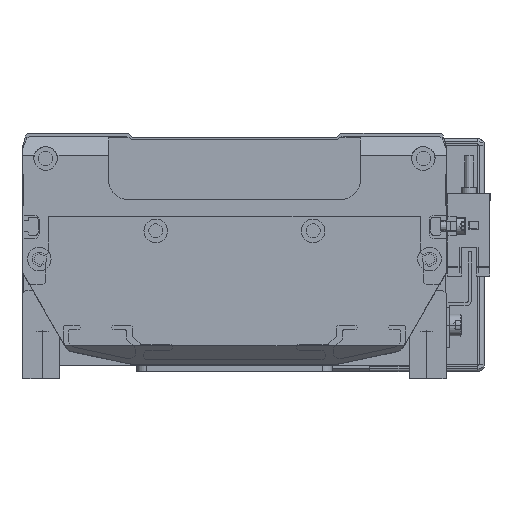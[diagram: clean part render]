
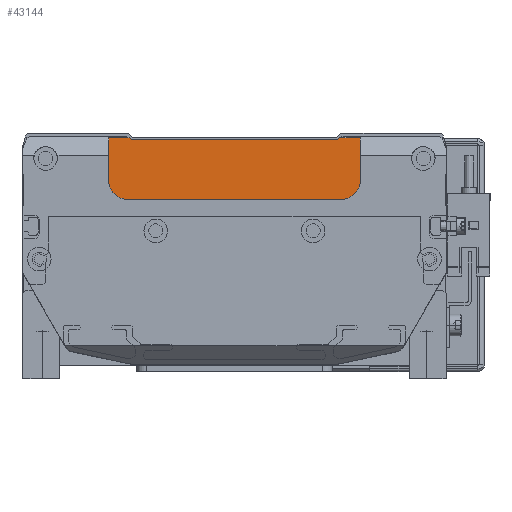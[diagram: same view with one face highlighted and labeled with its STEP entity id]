
A CAD part, front view. The second image highlights one B-rep face of the part: STEP entity #43144.
In plain terms, the highlighted planar face has unit normal (0, -1, 0) as drawn and (0, 0, -1) by its records, which use the part's own axes.
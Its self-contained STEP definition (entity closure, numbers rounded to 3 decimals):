
#97 = VECTOR ( 'NONE', #11158, 1000. ) ;
#592 = CARTESIAN_POINT ( 'NONE',  ( 3.604, 21., -364. ) ) ;
#617 = LINE ( 'NONE', #677, #35348 ) ;
#633 = CARTESIAN_POINT ( 'NONE',  ( 3.604, 1.5, -364. ) ) ;
#677 = CARTESIAN_POINT ( 'NONE',  ( 3.604, 2., -364. ) ) ;
#898 = VERTEX_POINT ( 'NONE', #40068 ) ;
#1066 = EDGE_CURVE ( 'NONE', #14233, #4211, #1387, .T. ) ;
#1229 = VERTEX_POINT ( 'NONE', #7883 ) ;
#1325 = CARTESIAN_POINT ( 'NONE',  ( -28.893, 2., -364. ) ) ;
#1387 = LINE ( 'NONE', #633, #16242 ) ;
#2067 = DIRECTION ( 'NONE',  ( -0.894, -0.447, 0. ) ) ;
#3050 = FACE_OUTER_BOUND ( 'NONE', #6437, .T. ) ;
#3360 = ORIENTED_EDGE ( 'NONE', *, *, #1066, .T. ) ;
#3368 = EDGE_CURVE ( 'NONE', #898, #41642, #6955, .T. ) ;
#4211 = VERTEX_POINT ( 'NONE', #18718 ) ;
#4616 = VERTEX_POINT ( 'NONE', #34570 ) ;
#5050 = VERTEX_POINT ( 'NONE', #1325 ) ;
#5167 = LINE ( 'NONE', #33452, #37277 ) ;
#6437 = EDGE_LOOP ( 'NONE', ( #11467, #3360, #11386, #33077, #43637, #9389, #41186, #16759, #37093, #38581 ) ) ;
#6955 = LINE ( 'NONE', #31588, #26962 ) ;
#7029 = EDGE_CURVE ( 'NONE', #4616, #41642, #5167, .T. ) ;
#7221 = CIRCLE ( 'NONE', #14910, 6. ) ;
#7883 = CARTESIAN_POINT ( 'NONE',  ( -36.396, 15., -364. ) ) ;
#8040 = EDGE_CURVE ( 'NONE', #42896, #18862, #7221, .T. ) ;
#8897 = VERTEX_POINT ( 'NONE', #13928 ) ;
#9389 = ORIENTED_EDGE ( 'NONE', *, *, #8040, .T. ) ;
#10092 = CARTESIAN_POINT ( 'NONE',  ( 37.604, 15., -364. ) ) ;
#10722 = CARTESIAN_POINT ( 'NONE',  ( 43.604, 15., -364. ) ) ;
#11158 = DIRECTION ( 'NONE',  ( 0., 1., 0. ) ) ;
#11386 = ORIENTED_EDGE ( 'NONE', *, *, #27716, .T. ) ;
#11467 = ORIENTED_EDGE ( 'NONE', *, *, #12205, .T. ) ;
#11788 = DIRECTION ( 'NONE',  ( 0.894, -0.447, 0. ) ) ;
#12205 = EDGE_CURVE ( 'NONE', #5050, #14233, #31116, .T. ) ;
#12406 = EDGE_CURVE ( 'NONE', #898, #5050, #617, .T. ) ;
#12886 = VECTOR ( 'NONE', #38952, 1000. ) ;
#13846 = EDGE_CURVE ( 'NONE', #8897, #42896, #32042, .T. ) ;
#13928 = CARTESIAN_POINT ( 'NONE',  ( -30.396, 21., -364. ) ) ;
#14233 = VERTEX_POINT ( 'NONE', #30256 ) ;
#14812 = AXIS2_PLACEMENT_3D ( 'NONE', #35379, #28488, #38798 ) ;
#14910 = AXIS2_PLACEMENT_3D ( 'NONE', #10092, #43489, #33165 ) ;
#15642 = PLANE ( 'NONE',  #35721 ) ;
#16242 = VECTOR ( 'NONE', #40630, 1000. ) ;
#16759 = ORIENTED_EDGE ( 'NONE', *, *, #7029, .T. ) ;
#17145 = LINE ( 'NONE', #42339, #12886 ) ;
#17394 = EDGE_CURVE ( 'NONE', #18862, #4616, #17145, .T. ) ;
#17561 = DIRECTION ( 'NONE',  ( -1., 0., 0. ) ) ;
#18718 = CARTESIAN_POINT ( 'NONE',  ( -36.396, 1.5, -364. ) ) ;
#18862 = VERTEX_POINT ( 'NONE', #10722 ) ;
#19068 = EDGE_CURVE ( 'NONE', #1229, #8897, #24319, .T. ) ;
#19491 = CARTESIAN_POINT ( 'NONE',  ( -28.893, 2., -364. ) ) ;
#20175 = LINE ( 'NONE', #24703, #97 ) ;
#22248 = DIRECTION ( 'NONE',  ( -1., 0., 0. ) ) ;
#24319 = CIRCLE ( 'NONE', #14812, 6. ) ;
#24703 = CARTESIAN_POINT ( 'NONE',  ( -36.396, 25., -364. ) ) ;
#26962 = VECTOR ( 'NONE', #11788, 1000. ) ;
#27716 = EDGE_CURVE ( 'NONE', #4211, #1229, #20175, .T. ) ;
#27836 = VECTOR ( 'NONE', #38090, 1000. ) ;
#28488 = DIRECTION ( 'NONE',  ( 0., 0., -1. ) ) ;
#30045 = CARTESIAN_POINT ( 'NONE',  ( 37.604, 21., -364. ) ) ;
#30256 = CARTESIAN_POINT ( 'NONE',  ( -29.893, 1.5, -364. ) ) ;
#30577 = CARTESIAN_POINT ( 'NONE',  ( 37.1, 1.5, -364. ) ) ;
#31116 = LINE ( 'NONE', #19491, #32719 ) ;
#31588 = CARTESIAN_POINT ( 'NONE',  ( 0.903, 19.599, -364. ) ) ;
#32042 = LINE ( 'NONE', #592, #27836 ) ;
#32719 = VECTOR ( 'NONE', #2067, 1000. ) ;
#33077 = ORIENTED_EDGE ( 'NONE', *, *, #19068, .T. ) ;
#33165 = DIRECTION ( 'NONE',  ( 1., 0., 0. ) ) ;
#33452 = CARTESIAN_POINT ( 'NONE',  ( 3.604, 1.5, -364. ) ) ;
#34570 = CARTESIAN_POINT ( 'NONE',  ( 43.604, 1.5, -364. ) ) ;
#35348 = VECTOR ( 'NONE', #17561, 1000. ) ;
#35379 = CARTESIAN_POINT ( 'NONE',  ( -30.396, 15., -364. ) ) ;
#35721 = AXIS2_PLACEMENT_3D ( 'NONE', #39219, #42319, #22248 ) ;
#36845 = DIRECTION ( 'NONE',  ( -1., 0., 0. ) ) ;
#37093 = ORIENTED_EDGE ( 'NONE', *, *, #3368, .F. ) ;
#37277 = VECTOR ( 'NONE', #36845, 1000. ) ;
#38090 = DIRECTION ( 'NONE',  ( 1., 0., 0. ) ) ;
#38581 = ORIENTED_EDGE ( 'NONE', *, *, #12406, .T. ) ;
#38798 = DIRECTION ( 'NONE',  ( 1., 0., 0. ) ) ;
#38952 = DIRECTION ( 'NONE',  ( 0., -1., 0. ) ) ;
#39219 = CARTESIAN_POINT ( 'NONE',  ( 3.604, 25., -364. ) ) ;
#40068 = CARTESIAN_POINT ( 'NONE',  ( 36.1, 2., -364. ) ) ;
#40630 = DIRECTION ( 'NONE',  ( -1., 0., 0. ) ) ;
#41186 = ORIENTED_EDGE ( 'NONE', *, *, #17394, .T. ) ;
#41642 = VERTEX_POINT ( 'NONE', #30577 ) ;
#42319 = DIRECTION ( 'NONE',  ( 0., 0., -1. ) ) ;
#42339 = CARTESIAN_POINT ( 'NONE',  ( 43.604, 25., -364. ) ) ;
#42896 = VERTEX_POINT ( 'NONE', #30045 ) ;
#43144 = ADVANCED_FACE ( 'NONE', ( #3050 ), #15642, .T. ) ;
#43489 = DIRECTION ( 'NONE',  ( 0., 0., -1. ) ) ;
#43637 = ORIENTED_EDGE ( 'NONE', *, *, #13846, .T. ) ;
